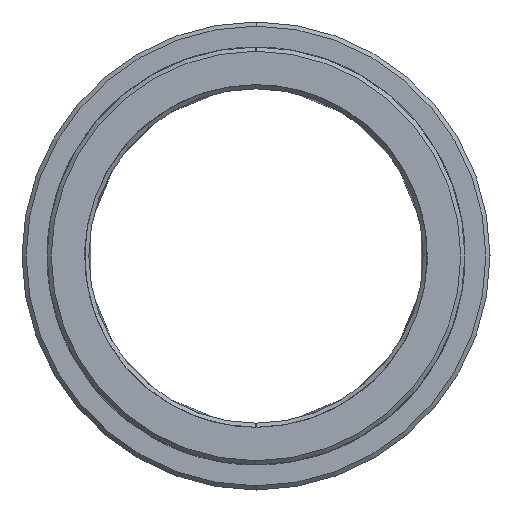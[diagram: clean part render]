
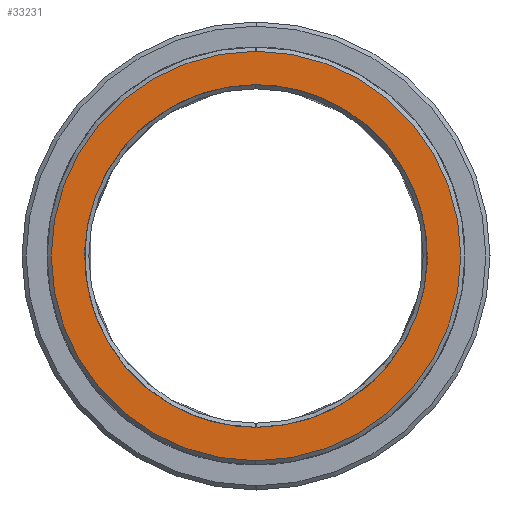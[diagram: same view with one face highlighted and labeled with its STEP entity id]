
A CAD part, left-side view. The second image highlights one B-rep face of the part: STEP entity #33231.
In plain terms, the highlighted planar face has unit normal (1, 0, 0).
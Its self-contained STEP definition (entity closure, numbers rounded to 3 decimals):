
#33148=CARTESIAN_POINT('Axis2P3D Location',(-25.,0.,0.)) ;
#33153=CARTESIAN_POINT('Axis2P3D Location',(-25.,0.,0.)) ;
#33157=CARTESIAN_POINT('Vertex',(-25.,0.,-24.5)) ;
#33159=CARTESIAN_POINT('Vertex',(-25.,0.,24.5)) ;
#33162=CARTESIAN_POINT('Axis2P3D Location',(-25.,0.,0.)) ;
#33172=CARTESIAN_POINT('Control Point',(-25.,0.,20.5)) ;
#33173=CARTESIAN_POINT('Control Point',(-25.,1.996,20.5)) ;
#33174=CARTESIAN_POINT('Control Point',(-25.,3.993,20.257)) ;
#33175=CARTESIAN_POINT('Control Point',(-25.,5.949,19.771)) ;
#33176=CARTESIAN_POINT('Control Point',(-25.,9.705,18.332)) ;
#33177=CARTESIAN_POINT('Control Point',(-25.,13.007,16.035)) ;
#33178=CARTESIAN_POINT('Control Point',(-25.,14.509,14.69)) ;
#33179=CARTESIAN_POINT('Control Point',(-25.,17.155,11.661)) ;
#33180=CARTESIAN_POINT('Control Point',(-25.,18.998,8.086)) ;
#33181=CARTESIAN_POINT('Control Point',(-25.,19.696,6.194)) ;
#33182=CARTESIAN_POINT('Control Point',(-25.,20.617,2.279)) ;
#33183=CARTESIAN_POINT('Control Point',(-25.,20.573,-1.743)) ;
#33184=CARTESIAN_POINT('Control Point',(-25.,20.305,-3.741)) ;
#33185=CARTESIAN_POINT('Control Point',(-25.,19.288,-7.633)) ;
#33186=CARTESIAN_POINT('Control Point',(-25.,17.367,-11.166)) ;
#33187=CARTESIAN_POINT('Control Point',(-25.,16.195,-12.807)) ;
#33188=CARTESIAN_POINT('Control Point',(-25.,13.475,-15.77)) ;
#33189=CARTESIAN_POINT('Control Point',(-25.,10.124,-17.994)) ;
#33190=CARTESIAN_POINT('Control Point',(-25.,8.32,-18.896)) ;
#33191=CARTESIAN_POINT('Control Point',(-25.,5.568,-19.873)) ;
#33192=CARTESIAN_POINT('Control Point',(-25.,2.705,-20.351)) ;
#33193=CARTESIAN_POINT('Control Point',(-25.,1.805,-20.45)) ;
#33194=CARTESIAN_POINT('Control Point',(-25.,0.903,-20.5)) ;
#33195=CARTESIAN_POINT('Control Point',(-25.,0.,-20.5)) ;
#33196=CARTESIAN_POINT('Vertex',(-25.,0.,20.5)) ;
#33198=CARTESIAN_POINT('Vertex',(-25.,0.,-20.5)) ;
#33202=CARTESIAN_POINT('Control Point',(-25.,0.,-20.5)) ;
#33203=CARTESIAN_POINT('Control Point',(-25.,-1.996,-20.5)) ;
#33204=CARTESIAN_POINT('Control Point',(-25.,-3.993,-20.257)) ;
#33205=CARTESIAN_POINT('Control Point',(-25.,-5.949,-19.771)) ;
#33206=CARTESIAN_POINT('Control Point',(-25.,-9.705,-18.332)) ;
#33207=CARTESIAN_POINT('Control Point',(-25.,-13.007,-16.035)) ;
#33208=CARTESIAN_POINT('Control Point',(-25.,-14.509,-14.69)) ;
#33209=CARTESIAN_POINT('Control Point',(-25.,-17.155,-11.661)) ;
#33210=CARTESIAN_POINT('Control Point',(-25.,-18.998,-8.086)) ;
#33211=CARTESIAN_POINT('Control Point',(-25.,-19.696,-6.194)) ;
#33212=CARTESIAN_POINT('Control Point',(-25.,-20.617,-2.279)) ;
#33213=CARTESIAN_POINT('Control Point',(-25.,-20.573,1.743)) ;
#33214=CARTESIAN_POINT('Control Point',(-25.,-20.305,3.741)) ;
#33215=CARTESIAN_POINT('Control Point',(-25.,-19.288,7.633)) ;
#33216=CARTESIAN_POINT('Control Point',(-25.,-17.367,11.166)) ;
#33217=CARTESIAN_POINT('Control Point',(-25.,-16.195,12.807)) ;
#33218=CARTESIAN_POINT('Control Point',(-25.,-13.475,15.77)) ;
#33219=CARTESIAN_POINT('Control Point',(-25.,-10.124,17.994)) ;
#33220=CARTESIAN_POINT('Control Point',(-25.,-8.32,18.896)) ;
#33221=CARTESIAN_POINT('Control Point',(-25.,-5.568,19.873)) ;
#33222=CARTESIAN_POINT('Control Point',(-25.,-2.705,20.351)) ;
#33223=CARTESIAN_POINT('Control Point',(-25.,-1.805,20.45)) ;
#33224=CARTESIAN_POINT('Control Point',(-25.,-0.903,20.5)) ;
#33225=CARTESIAN_POINT('Control Point',(-25.,0.,20.5)) ;
#33149=DIRECTION('Axis2P3D Direction',(1.,0.,0.)) ;
#33150=DIRECTION('Axis2P3D XDirection',(0.,1.,0.)) ;
#33154=DIRECTION('Axis2P3D Direction',(1.,0.,0.)) ;
#33163=DIRECTION('Axis2P3D Direction',(1.,0.,0.)) ;
#33151=AXIS2_PLACEMENT_3D('Plane Axis2P3D',#33148,#33149,#33150) ;
#33155=AXIS2_PLACEMENT_3D('Circle Axis2P3D',#33153,#33154,$) ;
#33164=AXIS2_PLACEMENT_3D('Circle Axis2P3D',#33162,#33163,$) ;
#33168=ORIENTED_EDGE('',*,*,#33161,.T.) ;
#33169=ORIENTED_EDGE('',*,*,#33166,.T.) ;
#33228=ORIENTED_EDGE('',*,*,#33200,.T.) ;
#33229=ORIENTED_EDGE('',*,*,#33226,.T.) ;
#33230=FACE_BOUND('',#33227,.T.) ;
#33231=ADVANCED_FACE('MANIFOLD_SOLID_BREP #15313',(#33170,#33230),#33152,.T.) ;
#33171=B_SPLINE_CURVE_WITH_KNOTS('',5,(#33172,#33173,#33174,#33175,#33176,#33177,#33178,#33179,#33180,#33181,#33182,#33183,#33184,#33185,#33186,#33187,#33188,#33189,#33190,#33191,#33192,#33193,#33194,#33195),.UNSPECIFIED.,.F.,.U.,(6,3,3,3,3,3,3,6),(0.,14.116,28.232,42.347,56.463,70.579,84.695,91.078),.UNSPECIFIED.) ;
#33201=B_SPLINE_CURVE_WITH_KNOTS('',5,(#33202,#33203,#33204,#33205,#33206,#33207,#33208,#33209,#33210,#33211,#33212,#33213,#33214,#33215,#33216,#33217,#33218,#33219,#33220,#33221,#33222,#33223,#33224,#33225),.UNSPECIFIED.,.F.,.U.,(6,3,3,3,3,3,3,6),(0.,14.116,28.232,42.347,56.463,70.579,84.695,91.078),.UNSPECIFIED.) ;
#33156=CIRCLE('generated circle',#33155,24.5) ;
#33165=CIRCLE('generated circle',#33164,24.5) ;
#33161=EDGE_CURVE('',#33158,#33160,#33156,.T.) ;
#33166=EDGE_CURVE('',#33160,#33158,#33165,.T.) ;
#33200=EDGE_CURVE('',#33197,#33199,#33171,.T.) ;
#33226=EDGE_CURVE('',#33199,#33197,#33201,.T.) ;
#33167=EDGE_LOOP('',(#33168,#33169)) ;
#33227=EDGE_LOOP('',(#33228,#33229)) ;
#33170=FACE_OUTER_BOUND('',#33167,.T.) ;
#33152=PLANE('Plane',#33151) ;
#33158=VERTEX_POINT('',#33157) ;
#33160=VERTEX_POINT('',#33159) ;
#33197=VERTEX_POINT('',#33196) ;
#33199=VERTEX_POINT('',#33198) ;
